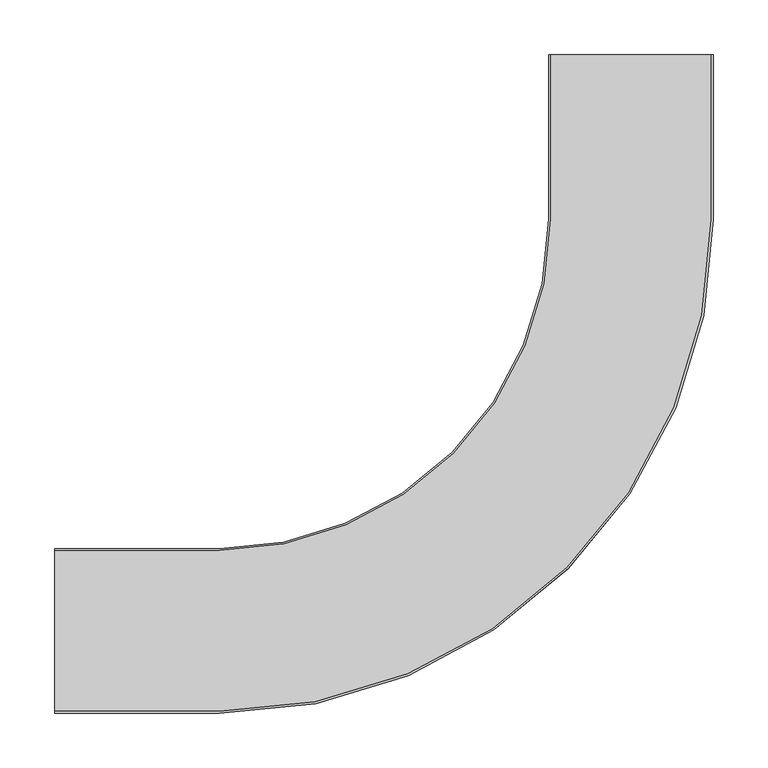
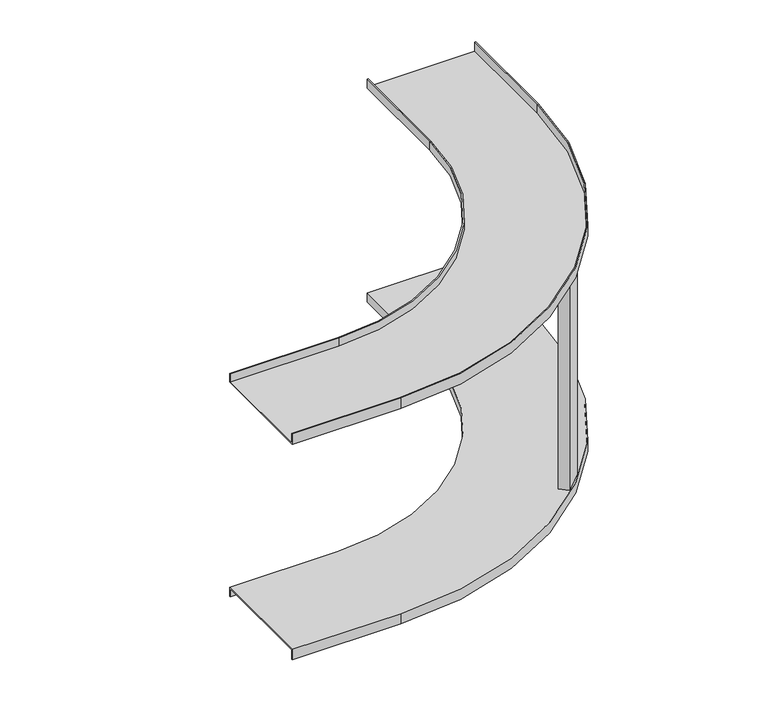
"""IFC4 building model written with IfcOpenShell, lengths in millimetres: cable carrier fitting geometry, CCBSL-CCBSLR_Vertical_Inside_Bend-Basortrav : Basortrav CCBSL-300 GC."""

from ifc_helpers import new_model, si_unit, frame, origin, place, context, project, spatial, polyline, circle_curve, outline, extrude, source, transform, mapped, element, save
from ifc_brep_helpers import plane_surface, cylinder_surface, revolved_surface, advanced_brep


def cable_carrier_fitting_3d8c255d(model_context):
    return source(origin(), model_context, "Body", "SolidModel", [
        advanced_brep(
        [(-525.0, 75.0, 163.0), (-525.0, 75.0, 150.0), (-525.0, -75.0, 150.0), (-525.0, -75.0, 165.1346187), (-525.0, -73.5, 165.1346187), (-525.0, -73.5, 151.5), (-525.0, 73.5, 151.5), (-525.0, 73.5, 163.0), (-375.0, 75.0, 163.0), (-375.0, 75.0, 150.0), (-75.0, 375.0, 150.0), (-75.0, 525.0, 150.0), (75.0, 525.0, 150.0), (75.0, 375.0, 150.0), (-375.0, -75.0, 150.0), (-375.0, -75.0, 165.1346187), (-375.0, 73.5, 151.5), (-375.0, 73.5, 163.0), (-73.5, 375.0, 163.0), (-73.5, 525.0, 163.0), (-75.0, 525.0, 163.0), (-75.0, 375.0, 163.0), (75.0, 375.0, 165.1346187), (-73.5, 375.0, 151.5), (-73.5, 525.0, 151.5), (73.5, 525.0, 151.5), (73.5, 525.0, 165.1346187), (75.0, 525.0, 165.1346187), (73.5, 375.0, 165.1346187), (-375.0, -73.5, 165.1346187), (-375.0, -73.5, 151.5), (73.5, 375.0, 151.5)],
        [
            (0, 1),
            (1, 2),
            (2, 3),
            (3, 4),
            (4, 5),
            (5, 6),
            (6, 7),
            (7, 0),
            (0, 8),
            (8, 9),
            (9, 1),
            (9, 10, circle_curve(frame((-375.0, 375.0, 150.0), z_axis=(0.0, 0.0, 1.0), x_axis=(0.0, -1.0, 0.0)), 300.0)),
            (10, 11),
            (11, 12),
            (12, 13),
            (13, 14, circle_curve(frame((-375.0, 375.0, 150.0), z_axis=(0.0, 0.0, -1.0), x_axis=(0.0, -1.0, 0.0)), 450.0)),
            (14, 2),
            (14, 15),
            (15, 3),
            (6, 16),
            (16, 17),
            (17, 7),
            (17, 18, circle_curve(frame((-375.0, 375.0, 163.0), z_axis=(0.0, 0.0, 1.0), x_axis=(0.0, -1.0, 0.0)), 301.5)),
            (18, 19),
            (19, 20),
            (20, 21),
            (21, 8, circle_curve(frame((-375.0, 375.0, 163.0), z_axis=(0.0, 0.0, -1.0), x_axis=(0.0, -1.0, 0.0)), 300.0)),
            (21, 10),
            (22, 15, circle_curve(frame((-375.0, 375.0, 165.1346187), z_axis=(0.0, 0.0, -1.0), x_axis=(0.0, -1.0, 0.0)), 450.0)),
            (13, 22),
            (16, 23, circle_curve(frame((-375.0, 375.0, 151.5), z_axis=(0.0, 0.0, 1.0), x_axis=(0.0, -1.0, 0.0)), 301.5)),
            (23, 18),
            (19, 24),
            (24, 25),
            (25, 26),
            (26, 27),
            (27, 12),
            (11, 20),
            (27, 22),
            (23, 24),
            (26, 28),
            (28, 29, circle_curve(frame((-375.0, 375.0, 165.1346187), z_axis=(0.0, 0.0, -1.0), x_axis=(0.0, -1.0, 0.0)), 448.5)),
            (29, 4),
            (29, 30),
            (30, 5),
            (30, 31, circle_curve(frame((-375.0, 375.0, 151.5), z_axis=(0.0, 0.0, 1.0), x_axis=(0.0, -1.0, 0.0)), 448.5)),
            (31, 25),
            (28, 31),
        ],
        [
            plane_surface(frame((-525.0, 0.0, 0.0), z_axis=(-1.0, 0.0, 0.0), x_axis=(0.0, 0.0, 1.0))),
            plane_surface(frame((-525.0, 75.0, 163.0), z_axis=(0.0, 1.0, 0.0), x_axis=(1.0, 0.0, 0.0))),
            plane_surface(frame((-525.0, 75.0, 150.0), z_axis=(0.0, 0.0, -1.0), x_axis=(1.0, 0.0, 0.0))),
            plane_surface(frame((-525.0, -75.0, 150.0), z_axis=(0.0, -1.0, 0.0), x_axis=(1.0, 0.0, 0.0))),
            plane_surface(frame((-525.0, 73.5, 151.5), z_axis=(0.0, -1.0, 0.0), x_axis=(1.0, 0.0, 0.0))),
            plane_surface(frame((-525.0, 73.5, 163.0), z_axis=(0.0, 0.0, 1.0), x_axis=(1.0, 0.0, 0.0))),
            revolved_surface(polyline([(-375.0, 75.0, 163.0), (-375.0, 75.0, 150.0)]), (-375.0, 375.0, 0.0), (0.0, 0.0, 1.0)),
            cylinder_surface(frame((-375.0, 375.0, 0.0), z_axis=(0.0, 0.0, 1.0), x_axis=(0.0, -1.0, 0.0)), 450.0),
            cylinder_surface(frame((-375.0, 375.0, 0.0), z_axis=(0.0, 0.0, 1.0), x_axis=(0.0, -1.0, 0.0)), 301.5),
            plane_surface(frame((0.0, 525.0, 0.0), z_axis=(0.0, 1.0, 0.0), x_axis=(0.0, 0.0, 1.0))),
            plane_surface(frame((-75.0, 375.0, 163.0), z_axis=(-1.0, 0.0, 0.0), x_axis=(0.0, 1.0, 0.0))),
            plane_surface(frame((75.0, 375.0, 150.0), z_axis=(1.0, 0.0, 0.0), x_axis=(0.0, 1.0, 0.0))),
            plane_surface(frame((-73.5, 375.0, 151.5), z_axis=(1.0, 0.0, 0.0), x_axis=(0.0, 1.0, 0.0))),
            plane_surface(frame((-525.0, -75.0, 165.1346187), z_axis=(0.0, 0.0, 1.0), x_axis=(1.0, 0.0, 0.0))),
            plane_surface(frame((-525.0, -73.5, 165.1346187), z_axis=(0.0, 1.0, 0.0), x_axis=(1.0, 0.0, 0.0))),
            plane_surface(frame((-525.0, -73.5, 151.5), z_axis=(0.0, 0.0, 1.0), x_axis=(1.0, 0.0, 0.0))),
            revolved_surface(polyline([(-375.0, -73.5, 165.1346187), (-375.0, -73.5, 151.5)]), (-375.0, 375.0, 0.0), (0.0, 0.0, 1.0)),
            plane_surface(frame((73.5, 375.0, 165.1346187), z_axis=(-1.0, 0.0, 0.0), x_axis=(0.0, 1.0, 0.0))),
        ],
        [
            (0, [[1, 2, 3, 4, 5, 6, 7, 8]]),
            (1, [[-1, 9, 10, 11]]),
            (2, [[-2, -11, 12, 13, 14, 15, 16, 17]]),
            (3, [[-3, -17, 18, 19]]),
            (4, [[-7, 20, 21, 22]]),
            (5, [[-8, -22, 23, 24, 25, 26, 27, -9]]),
            (6, [[-12, -10, -27, 28]]),
            (7, [[29, -18, -16, 30]]),
            (8, [[-23, -21, 31, 32]]),
            (9, [[-25, 33, 34, 35, 36, 37, -14, 38]]),
            (10, [[-28, -26, -38, -13]]),
            (11, [[-30, -15, -37, 39]]),
            (12, [[-32, 40, -33, -24]]),
            (13, [[-4, -19, -29, -39, -36, 41, 42, 43]]),
            (14, [[-5, -43, 44, 45]]),
            (15, [[-6, -45, 46, 47, -34, -40, -31, -20]]),
            (16, [[-46, -44, -42, 48]]),
            (17, [[-48, -41, -35, -47]]),
        ],
    ),
        extrude(outline(polyline([(-56.4483951, 81.1971324), (-46.5489001, 71.2976375), (-71.2976375, 46.5489001), (-81.1971324, 56.4483951), (-56.4483951, 81.1971324)])), frame((0.0, 0.0, -150.0), z_axis=(0.0, 0.0, 1.0), x_axis=(1.0, 0.0, 0.0)), (0.0, 0.0, 1.0), 300.0),
        advanced_brep(
        [(-525.0, 75.0, -163.0), (-525.0, 73.5, -163.0), (-525.0, 73.5, -151.5), (-525.0, -73.5, -151.5), (-525.0, -73.5, -165.1346187), (-525.0, -75.0, -165.1346187), (-525.0, -75.0, -150.0), (-525.0, 75.0, -150.0), (-75.0, 525.0, -163.0), (-75.0, 525.0, -150.0), (75.0, 525.0, -150.0), (75.0, 525.0, -165.1346187), (73.5, 525.0, -165.1346187), (73.5, 525.0, -151.5), (-73.5, 525.0, -151.5), (-73.5, 525.0, -163.0), (-375.0, 75.0, -150.0), (-375.0, 75.0, -163.0), (-375.0, -75.0, -150.0), (75.0, 375.0, -150.0), (-75.0, 375.0, -150.0), (-375.0, -75.0, -165.1346187), (-375.0, 73.5, -163.0), (-375.0, 73.5, -151.5), (-75.0, 375.0, -163.0), (-73.5, 375.0, -163.0), (75.0, 375.0, -165.1346187), (-73.5, 375.0, -151.5), (73.5, 375.0, -151.5), (-375.0, -73.5, -151.5), (-375.0, -73.5, -165.1346187), (73.5, 375.0, -165.1346187)],
        [
            (0, 1),
            (1, 2),
            (2, 3),
            (3, 4),
            (4, 5),
            (5, 6),
            (6, 7),
            (7, 0),
            (8, 9),
            (9, 10),
            (10, 11),
            (11, 12),
            (12, 13),
            (13, 14),
            (14, 15),
            (15, 8),
            (7, 16),
            (16, 17),
            (17, 0),
            (6, 18),
            (18, 19, circle_curve(frame((-375.0, 375.0, -150.0), z_axis=(0.0, 0.0, 1.0), x_axis=(0.0, -1.0, 0.0)), 450.0)),
            (19, 10),
            (9, 20),
            (20, 16, circle_curve(frame((-375.0, 375.0, -150.0), z_axis=(0.0, 0.0, -1.0), x_axis=(0.0, -1.0, 0.0)), 300.0)),
            (5, 21),
            (21, 18),
            (1, 22),
            (22, 23),
            (23, 2),
            (17, 24, circle_curve(frame((-375.0, 375.0, -163.0), z_axis=(0.0, 0.0, 1.0), x_axis=(0.0, -1.0, 0.0)), 300.0)),
            (24, 8),
            (15, 25),
            (25, 22, circle_curve(frame((-375.0, 375.0, -163.0), z_axis=(0.0, 0.0, -1.0), x_axis=(0.0, -1.0, 0.0)), 301.5)),
            (20, 24),
            (21, 26, circle_curve(frame((-375.0, 375.0, -165.1346187), z_axis=(0.0, 0.0, 1.0), x_axis=(0.0, -1.0, 0.0)), 450.0)),
            (26, 19),
            (27, 23, circle_curve(frame((-375.0, 375.0, -151.5), z_axis=(0.0, 0.0, -1.0), x_axis=(0.0, -1.0, 0.0)), 301.5)),
            (25, 27),
            (26, 11),
            (14, 27),
            (13, 28),
            (28, 29, circle_curve(frame((-375.0, 375.0, -151.5), z_axis=(0.0, 0.0, -1.0), x_axis=(0.0, -1.0, 0.0)), 448.5)),
            (29, 3),
            (29, 30),
            (30, 4),
            (30, 31, circle_curve(frame((-375.0, 375.0, -165.1346187), z_axis=(0.0, 0.0, 1.0), x_axis=(0.0, -1.0, 0.0)), 448.5)),
            (31, 12),
            (28, 31),
        ],
        [
            plane_surface(frame((-525.0, 0.0, 0.0), z_axis=(-1.0, 0.0, 0.0), x_axis=(0.0, 0.0, 1.0))),
            plane_surface(frame((0.0, 525.0, 0.0), z_axis=(0.0, 1.0, 0.0), x_axis=(0.0, 0.0, 1.0))),
            plane_surface(frame((-525.0, 75.0, -150.0), z_axis=(0.0, 1.0, 0.0), x_axis=(1.0, 0.0, 0.0))),
            plane_surface(frame((-525.0, -75.0, -150.0), z_axis=(0.0, 0.0, 1.0), x_axis=(1.0, 0.0, 0.0))),
            plane_surface(frame((-525.0, -75.0, -165.1346187), z_axis=(0.0, -1.0, 0.0), x_axis=(1.0, 0.0, 0.0))),
            plane_surface(frame((-525.0, 73.5, -163.0), z_axis=(0.0, -1.0, 0.0), x_axis=(1.0, 0.0, 0.0))),
            plane_surface(frame((-525.0, 75.0, -163.0), z_axis=(0.0, 0.0, -1.0), x_axis=(1.0, 0.0, 0.0))),
            revolved_surface(polyline([(-375.0, 75.0, -150.0), (-375.0, 75.0, -163.0)]), (-375.0, 375.0, 0.0), (0.0, 0.0, 1.0)),
            cylinder_surface(frame((-375.0, 375.0, 0.0), z_axis=(0.0, 0.0, 1.0), x_axis=(0.0, -1.0, 0.0)), 450.0),
            cylinder_surface(frame((-375.0, 375.0, 0.0), z_axis=(0.0, 0.0, 1.0), x_axis=(0.0, -1.0, 0.0)), 301.5),
            plane_surface(frame((-75.0, 375.0, -150.0), z_axis=(-1.0, 0.0, 0.0), x_axis=(0.0, 1.0, 0.0))),
            plane_surface(frame((75.0, 375.0, -165.1346187), z_axis=(1.0, 0.0, 0.0), x_axis=(0.0, 1.0, 0.0))),
            plane_surface(frame((-73.5, 375.0, -163.0), z_axis=(1.0, 0.0, 0.0), x_axis=(0.0, 1.0, 0.0))),
            plane_surface(frame((-525.0, 73.5, -151.5), z_axis=(0.0, 0.0, -1.0), x_axis=(1.0, 0.0, 0.0))),
            plane_surface(frame((-525.0, -73.5, -151.5), z_axis=(0.0, 1.0, 0.0), x_axis=(1.0, 0.0, 0.0))),
            plane_surface(frame((-525.0, -73.5, -165.1346187), z_axis=(0.0, 0.0, -1.0), x_axis=(1.0, 0.0, 0.0))),
            revolved_surface(polyline([(-375.0, -73.5, -151.5), (-375.0, -73.5, -165.1346187)]), (-375.0, 375.0, 0.0), (0.0, 0.0, 1.0)),
            plane_surface(frame((73.5, 375.0, -151.5), z_axis=(-1.0, 0.0, 0.0), x_axis=(0.0, 1.0, 0.0))),
        ],
        [
            (0, [[1, 2, 3, 4, 5, 6, 7, 8]]),
            (1, [[9, 10, 11, 12, 13, 14, 15, 16]]),
            (2, [[-8, 17, 18, 19]]),
            (3, [[-7, 20, 21, 22, -10, 23, 24, -17]]),
            (4, [[-6, 25, 26, -20]]),
            (5, [[-2, 27, 28, 29]]),
            (6, [[-1, -19, 30, 31, -16, 32, 33, -27]]),
            (7, [[-30, -18, -24, 34]]),
            (8, [[-21, -26, 35, 36]]),
            (9, [[37, -28, -33, 38]]),
            (10, [[-34, -23, -9, -31]]),
            (11, [[-36, 39, -11, -22]]),
            (12, [[-38, -32, -15, 40]]),
            (13, [[-3, -29, -37, -40, -14, 41, 42, 43]]),
            (14, [[-4, -43, 44, 45]]),
            (15, [[-5, -45, 46, 47, -12, -39, -35, -25]]),
            (16, [[-46, -44, -42, 48]]),
            (17, [[-48, -41, -13, -47]]),
        ],
    ),
    ])


if __name__ == "__main__":
    model = new_model("IFC4")
    model_context = context("Model", 3, world=origin())
    ifc_project = project(units=[si_unit("LENGTHUNIT", "METRE", prefix="MILLI")], contexts=[model_context])
    site = spatial("IfcSite", under=ifc_project)
    building = spatial("IfcBuilding", under=site)
    placement = place(None, origin())
    cable_carrier_fitting_shape = cable_carrier_fitting_3d8c255d(model_context)
    element("IfcCableCarrierFitting", 1, ObjectType="CCBSL-CCBSLR_Vertical_Inside_Bend-Basortrav : Basortrav CCBSL-300 GC", at=placement, inside=building, context=model_context, shape_type="MappedRepresentation", body=[
        mapped(cable_carrier_fitting_shape, transform((0.0, 0.0, 0.0), x_axis=(1.0, 0.0, 0.0), y_axis=(0.0, 1.0, 0.0), z_axis=(0.0, 0.0, 1.0))),
    ])
    save(model, "model.ifc")
